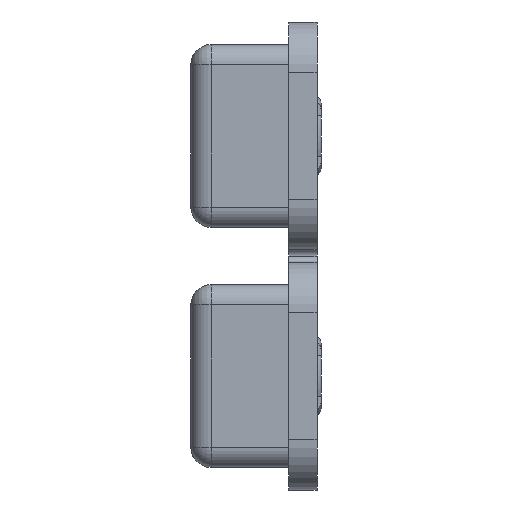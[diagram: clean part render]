
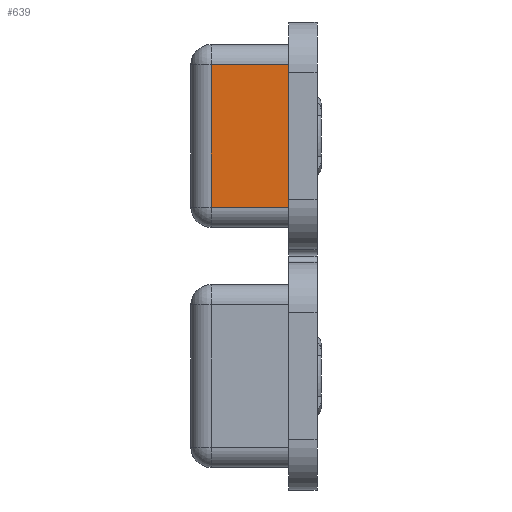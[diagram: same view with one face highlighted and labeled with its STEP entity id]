
A CAD part, left-side view. The second image highlights one B-rep face of the part: STEP entity #639.
In plain terms, the highlighted planar face has unit normal (-1, 0, 0).
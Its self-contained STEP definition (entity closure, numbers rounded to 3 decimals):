
#222 = EDGE_LOOP ( 'NONE', ( #16942, #17985, #19806, #9367 ) ) ;
#639 = ADVANCED_FACE ( 'NONE', ( #19687 ), #1095, .F. ) ;
#771 = AXIS2_PLACEMENT_3D ( 'NONE', #5931, #19899, #7172 ) ;
#1095 = PLANE ( 'NONE',  #771 ) ;
#2513 = VECTOR ( 'NONE', #16864, 1000. ) ;
#3733 = LINE ( 'NONE', #14645, #19550 ) ;
#4084 = CARTESIAN_POINT ( 'NONE',  ( -35.2, 1.9, 1.9 ) ) ;
#4463 = EDGE_CURVE ( 'NONE', #19244, #12222, #20146, .T. ) ;
#5830 = VERTEX_POINT ( 'NONE', #15730 ) ;
#5931 = CARTESIAN_POINT ( 'NONE',  ( -35.2, 2.4, 5.9 ) ) ;
#5968 = CARTESIAN_POINT ( 'NONE',  ( -35.2, 1.9, 5.9 ) ) ;
#7172 = DIRECTION ( 'NONE',  ( 0., 0., -1. ) ) ;
#7793 = DIRECTION ( 'NONE',  ( 0., 0., 1. ) ) ;
#7891 = LINE ( 'NONE', #12722, #19135 ) ;
#9367 = ORIENTED_EDGE ( 'NONE', *, *, #4463, .T. ) ;
#10802 = CARTESIAN_POINT ( 'NONE',  ( -35.2, 2.4, 5.4 ) ) ;
#11137 = CARTESIAN_POINT ( 'NONE',  ( -35.2, 0., 5.4 ) ) ;
#12222 = VERTEX_POINT ( 'NONE', #17838 ) ;
#12722 = CARTESIAN_POINT ( 'NONE',  ( -35.2, 0., 5.9 ) ) ;
#13172 = EDGE_CURVE ( 'NONE', #12222, #18650, #18296, .T. ) ;
#13558 = EDGE_CURVE ( 'NONE', #5830, #19244, #7891, .T. ) ;
#14645 = CARTESIAN_POINT ( 'NONE',  ( -35.2, 2.4, 1.9 ) ) ;
#15685 = EDGE_CURVE ( 'NONE', #18650, #5830, #3733, .T. ) ;
#15730 = CARTESIAN_POINT ( 'NONE',  ( -35.2, 0., 1.9 ) ) ;
#16864 = DIRECTION ( 'NONE',  ( 0., 1., 0. ) ) ;
#16942 = ORIENTED_EDGE ( 'NONE', *, *, #13172, .T. ) ;
#17838 = CARTESIAN_POINT ( 'NONE',  ( -35.2, 1.9, 5.4 ) ) ;
#17985 = ORIENTED_EDGE ( 'NONE', *, *, #15685, .T. ) ;
#18024 = DIRECTION ( 'NONE',  ( 0., -1., 0. ) ) ;
#18296 = LINE ( 'NONE', #5968, #19784 ) ;
#18493 = DIRECTION ( 'NONE',  ( 0., 0., -1. ) ) ;
#18650 = VERTEX_POINT ( 'NONE', #4084 ) ;
#19135 = VECTOR ( 'NONE', #7793, 1000. ) ;
#19244 = VERTEX_POINT ( 'NONE', #11137 ) ;
#19550 = VECTOR ( 'NONE', #18024, 1000. ) ;
#19687 = FACE_OUTER_BOUND ( 'NONE', #222, .T. ) ;
#19784 = VECTOR ( 'NONE', #18493, 1000. ) ;
#19806 = ORIENTED_EDGE ( 'NONE', *, *, #13558, .T. ) ;
#19899 = DIRECTION ( 'NONE',  ( 1., 0., 0. ) ) ;
#20146 = LINE ( 'NONE', #10802, #2513 ) ;
